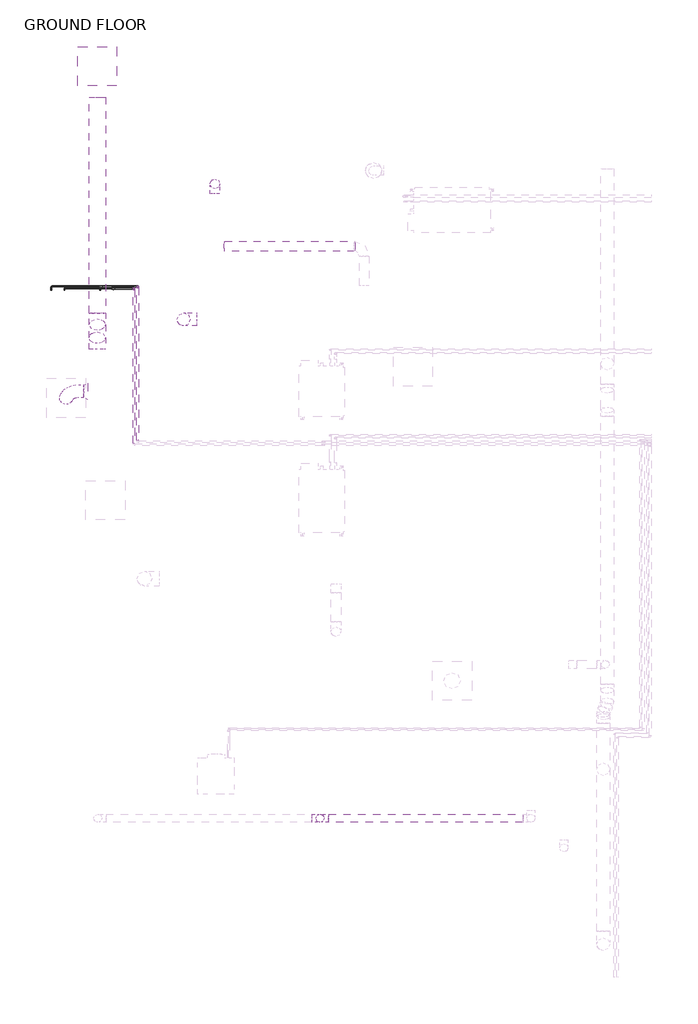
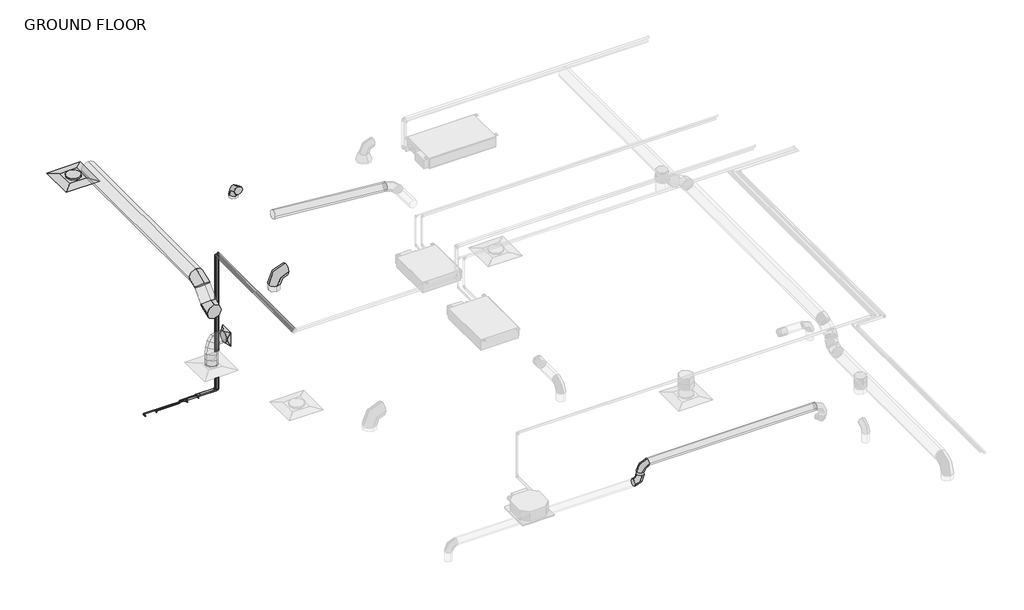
# One storey, part 10 of 20: 15 pipe fittings, 15 pipe segments, 8 duct segments, 7 duct fittings, 1 air terminal.
"""IFC4 building model written with IfcOpenShell, lengths in millimetres."""

from ifc_helpers import new_model, si_unit, point, frame, frame_2d, origin, place, context, project, spatial, circle_curve, ellipse_curve, trimmed, segment, composite_curve, outline, extrude, transform, mapped, element, save
from ifc_brep_helpers import plane_surface, cylinder_surface, advanced_brep
from components import air_terminal_a1f6e78c, rectangular_to_round_transition_angle_45_degree_544928fe, round_elbow_1_d_a253342a, round_elbow_1_d_b37ad80b, round_elbow_1_d_c80420c1, round_elbow_1_d_ea3dccb8, elbow_generic_standard_787ffbaa, elbow_generic_standard_c06ac706, elbow_generic_standard_a088f956, tee_generic_standard_d345b28c, transition_generic_standard_19d9bb8b, transition_generic_standard_6299f23b

model = new_model("IFC4")

# Units and contexts
model_context = context("Model", 3, world=origin())
ifc_project = project(units=[si_unit("LENGTHUNIT", "METRE", prefix="MILLI")], contexts=[model_context])

# Site, building, storey
site = spatial("IfcSite", under=ifc_project)
building = spatial("IfcBuilding", under=site)
storey = spatial("IfcBuildingStorey", under=building, Name="GROUND FLOOR", Elevation=30480.0)

# Air terminal
placement = place(None, origin())
air_terminal_shape = air_terminal_a1f6e78c(model_context)
element("IfcAirTerminal", 1, ObjectType="Supply Diffuser - Rectangular Face Round Neck - Hosted : 24\"x24\" Face 10\" Neck - Hosted", at=placement, inside=storey, context=model_context, shape_type="MappedRepresentation", body=[
    mapped(air_terminal_shape, transform((-19120.4829607, 13294.7195005, 33020.0), x_axis=(-1.0, 0.0, 0.0), y_axis=(0.0, 1.0, 0.0), z_axis=(0.0, 0.0, -1.0))),
])

# Duct fittings
rectangular_to_round_transition_angle_45_degree_shape = rectangular_to_round_transition_angle_45_degree_544928fe(model_context)
element("IfcDuctFitting", 2, ObjectType="Rectangular to Round Transition - Angle : 45 Degree", at=placement, inside=storey, context=model_context, shape_type="MappedRepresentation", body=[
    mapped(rectangular_to_round_transition_angle_45_degree_shape, transform((-19272.8829607, 8243.4520797, 33126.0074624), x_axis=(-0.9999999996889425, 0.0, 2.4942236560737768e-05), y_axis=(0.0, -1.0000000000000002, 0.0), z_axis=(2.4942236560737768e-05, 0.0, 0.9999999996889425))),
])
round_elbow_1_d_shape = round_elbow_1_d_a253342a(model_context)
element("IfcDuctFitting", 3, ObjectType="Round Elbow : 1 D", at=placement, inside=storey, context=model_context, shape_type="MappedRepresentation", body=[
    mapped(round_elbow_1_d_shape, transform((-17775.8704607, 9360.8945005, 33121.6), x_axis=(0.0, 0.0, 1.0), y_axis=(1.0, 0.0, 0.0), z_axis=(0.0, 1.0, 0.0))),
])
round_elbow_1_d_2_shape = round_elbow_1_d_b37ad80b(model_context)
element("IfcDuctFitting", 4, ObjectType="Round Elbow : 1 D", at=placement, inside=storey, context=model_context, shape_type="MappedRepresentation", body=[
    mapped(round_elbow_1_d_2_shape, transform((-17291.6829607, 11465.9195005, 33324.8), x_axis=(0.0, 0.0, 1.0), y_axis=(0.0, -1.0, 0.0), z_axis=(1.0, 0.0, 0.0))),
])
round_elbow_1_d_3_shape = round_elbow_1_d_c80420c1(model_context)
element("IfcDuctFitting", 5, ObjectType="Round Elbow : 1 D", at=placement, inside=storey, context=model_context, shape_type="MappedRepresentation", body=[
    mapped(round_elbow_1_d_3_shape, transform((-15656.5579607, 1613.8945005, 33121.6), x_axis=(1.0, 0.0, 0.0), y_axis=(0.0, 0.0, 1.0), z_axis=(0.0, -1.0, 0.0))),
])
element("IfcDuctFitting", 6, ObjectType="Round Elbow : 1 D", at=placement, inside=storey, context=model_context, shape_type="MappedRepresentation", body=[
    mapped(round_elbow_1_d_3_shape, transform((-15656.5579607, 1613.8945005, 33426.4), x_axis=(0.0, 0.0, 1.0), y_axis=(1.0, 0.0, 0.0), z_axis=(0.0, 1.0, 0.0))),
])
round_elbow_1_d_4_shape = round_elbow_1_d_ea3dccb8(model_context)
element("IfcDuctFitting", 7, ObjectType="Round Elbow : 1 D", at=placement, inside=storey, context=model_context, shape_type="MappedRepresentation", body=[
    mapped(round_elbow_1_d_4_shape, transform((-19120.4829607, 9003.6440535, 33126.0036612), x_axis=(0.0, 1.0, 0.0), y_axis=(0.0, 0.0, 1.0), z_axis=(1.0, 0.0, 0.0))),
])
element("IfcDuctFitting", 8, ObjectType="Round Elbow : 1 D", at=placement, inside=storey, context=model_context, shape_type="MappedRepresentation", body=[
    mapped(round_elbow_1_d_4_shape, transform((-19120.4829607, 9354.8403924, 33477.2), x_axis=(0.0, 0.707106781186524, 0.7071067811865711), y_axis=(0.0, 0.7071067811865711, -0.707106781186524), z_axis=(-1.0, 0.0, 0.0))),
])

# Duct segments
element("IfcDuctSegment", 9, ObjectType="Flex - Round", at=placement, inside=storey, context=model_context, shape_type="AdvancedBrep", body=[
    advanced_brep(
    [(-19334.2039851, 8141.8520797, 33126.0089919), (-19334.2065193, 8243.4520797, 33024.4089919), (-19334.2039851, 8345.0520797, 33126.0089919), (-19334.201451, 8243.4520797, 33227.6089918), (-19339.3953235, 8141.8520797, 33126.0091214), (-19340.589868, 8243.4520797, 33024.4091511), (-19337.3595831, 8345.0520797, 33126.0090706), (-19336.1650386, 8243.4520797, 33227.6090408), (-19571.3746602, 8045.7051799, 32769.175), (-19700.6597813, 8108.3987, 32769.175), (-19637.9662612, 8237.6838211, 32769.175), (-19508.6811401, 8174.990301, 32769.175), (-19406.4431173, 8143.1962762, 33128.9291558), (-19402.5083386, 8244.6934419, 33027.1057956), (-19412.9036409, 8346.5666122, 33129.2991304), (-19416.8384197, 8245.0694466, 33231.1224905), (-19458.1959934, 8138.8316889, 33119.2963139), (-19433.6401005, 8242.0679396, 33021.3111932), (-19496.173822, 8339.5440078, 33113.7999244), (-19520.7297149, 8236.3077571, 33211.785045), (-19497.1563337, 8124.9192335, 33086.9890267), (-19453.0278625, 8235.1447102, 33005.2341778), (-19559.6360729, 8316.8820975, 33061.1747893), (-19603.7645441, 8206.6566208, 33142.9296382), (-19530.1815615, 8102.0336622, 33028.1559055), (-19476.4370244, 8218.9228071, 32963.531693), (-19599.3318789, 8289.3739996, 32990.4583001), (-19653.076416, 8172.4848547, 33055.0825126), (-19553.6660683, 8076.2518524, 32949.9398995), (-19494.9390578, 8198.6108666, 32901.9099964), (-19622.8542209, 8263.5506536, 32912.116283), (-19681.5812314, 8141.1916394, 32960.1461861), (-19567.1119955, 8054.8656115, 32861.6704606), (-19505.5237169, 8181.7755775, 32832.4241281), (-19634.6883299, 8244.7280686, 32834.4280616), (-19696.2766085, 8117.8181025, 32863.6743941), (-19571.3746602, 8045.7051799, 32785.4279752), (-19508.6811401, 8174.990301, 32775.9501136), (-19637.9662612, 8237.6838211, 32775.7986259), (-19700.6597813, 8108.3987, 32785.2764875)],
    [
        (0, 1, circle_curve(frame((-19334.2039851, 8243.4520797, 33126.0089919), z_axis=(0.9999999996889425, 0.0, -2.4942236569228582e-05), x_axis=(0.0, -1.0, 0.0)), 101.6)),
        (1, 2, circle_curve(frame((-19334.2039851, 8243.4520797, 33126.0089919), z_axis=(0.9999999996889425, 0.0, -2.4942236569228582e-05), x_axis=(0.0, -1.0, 0.0)), 101.6)),
        (2, 3, circle_curve(frame((-19334.2039851, 8243.4520797, 33126.0089919), z_axis=(0.9999999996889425, 0.0, -2.4942236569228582e-05), x_axis=(0.0, -1.0, 0.0)), 101.6)),
        (3, 0, circle_curve(frame((-19334.2039851, 8243.4520797, 33126.0089919), z_axis=(0.9999999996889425, 0.0, -2.4942236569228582e-05), x_axis=(0.0, -1.0, 0.0)), 101.6)),
        (0, 4),
        (4, 5, ellipse_curve(frame((-19338.3774533, 8243.4520797, 33126.009096), z_axis=(0.9997128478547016, -0.010015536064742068, -0.02176949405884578), x_axis=(0.023962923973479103, 0.41823517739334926, 0.9080226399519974)), 101.6291279, 101.6)),
        (5, 1),
        (5, 6, ellipse_curve(frame((-19338.3774533, 8243.4520797, 33126.009096), z_axis=(0.9997128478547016, -0.010015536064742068, -0.02176949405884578), x_axis=(0.023962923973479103, 0.41823517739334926, 0.9080226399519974)), 101.6291279, 101.6)),
        (6, 2),
        (6, 7, ellipse_curve(frame((-19338.3774533, 8243.4520797, 33126.009096), z_axis=(0.9997128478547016, -0.010015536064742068, -0.02176949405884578), x_axis=(0.023962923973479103, 0.41823517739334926, 0.9080226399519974)), 101.6291279, 101.6)),
        (7, 3),
        (7, 4, ellipse_curve(frame((-19338.3774533, 8243.4520797, 33126.009096), z_axis=(0.9997128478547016, -0.010015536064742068, -0.02176949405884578), x_axis=(0.023962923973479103, 0.41823517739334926, 0.9080226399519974)), 101.6291279, 101.6)),
        (8, 9, circle_curve(frame((-19604.6704607, 8141.6945005, 32769.175), z_axis=(0.0, 0.0, -1.0), x_axis=(0.32771457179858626, -0.9447767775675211, 0.0)), 101.6)),
        (9, 10, circle_curve(frame((-19604.6704607, 8141.6945005, 32769.175), z_axis=(0.0, 0.0, -1.0), x_axis=(0.32771457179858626, -0.9447767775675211, 0.0)), 101.6)),
        (10, 11, circle_curve(frame((-19604.6704607, 8141.6945005, 32769.175), z_axis=(0.0, 0.0, -1.0), x_axis=(0.32771457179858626, -0.9447767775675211, 0.0)), 101.6)),
        (11, 8, circle_curve(frame((-19604.6704607, 8141.6945005, 32769.175), z_axis=(0.0, 0.0, -1.0), x_axis=(0.32771457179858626, -0.9447767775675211, 0.0)), 101.6)),
        (4, 12),
        (12, 13, ellipse_curve(frame((-19409.6733791, 8244.8814442, 33129.1141431), z_axis=(0.9970498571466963, 0.03154626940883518, 0.06997438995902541), x_axis=(0.07675629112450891, -0.4125398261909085, -0.9077000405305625)), 102.395597, 101.6)),
        (13, 5),
        (13, 14, ellipse_curve(frame((-19409.6733791, 8244.8814442, 33129.1141431), z_axis=(0.9970498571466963, 0.03154626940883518, 0.06997438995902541), x_axis=(0.07675629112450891, -0.4125398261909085, -0.9077000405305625)), 102.395597, 101.6)),
        (14, 6),
        (14, 15, ellipse_curve(frame((-19409.6733791, 8244.8814442, 33129.1141431), z_axis=(0.9970498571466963, 0.03154626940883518, 0.06997438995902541), x_axis=(0.07675629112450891, -0.4125398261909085, -0.9077000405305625)), 102.395597, 101.6)),
        (15, 7),
        (15, 12, ellipse_curve(frame((-19409.6733791, 8244.8814442, 33129.1141431), z_axis=(0.9970498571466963, 0.03154626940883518, 0.06997438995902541), x_axis=(0.07675629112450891, -0.4125398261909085, -0.9077000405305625)), 102.395597, 101.6)),
        (12, 16),
        (16, 17, ellipse_curve(frame((-19477.1849077, 8239.1878483, 33116.5481191), z_axis=(0.892486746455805, 0.18019602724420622, 0.41351759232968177), x_axis=(0.4510463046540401, -0.34642325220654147, -0.8225254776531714)), 105.3159408, 101.6)),
        (17, 13),
        (17, 18, ellipse_curve(frame((-19477.1849077, 8239.1878483, 33116.5481191), z_axis=(0.892486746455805, 0.18019602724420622, 0.41351759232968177), x_axis=(0.4510463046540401, -0.34642325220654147, -0.8225254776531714)), 105.3159408, 101.6)),
        (18, 14),
        (18, 19, ellipse_curve(frame((-19477.1849077, 8239.1878483, 33116.5481191), z_axis=(0.892486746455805, 0.18019602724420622, 0.41351759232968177), x_axis=(0.4510463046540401, -0.34642325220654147, -0.8225254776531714)), 105.3159408, 101.6)),
        (19, 15),
        (19, 16, ellipse_curve(frame((-19477.1849077, 8239.1878483, 33116.5481191), z_axis=(0.892486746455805, 0.18019602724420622, 0.41351759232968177), x_axis=(0.4510463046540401, -0.34642325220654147, -0.8225254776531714)), 105.3159408, 101.6)),
        (16, 20),
        (20, 21, ellipse_curve(frame((-19528.3962033, 8220.9006655, 33074.081908), z_axis=(0.612545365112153, 0.297830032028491, 0.7321785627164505), x_axis=(0.7880932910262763, -0.158863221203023, -0.5947028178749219)), 103.2263921, 101.6)),
        (21, 17),
        (21, 22, ellipse_curve(frame((-19528.3962033, 8220.9006655, 33074.081908), z_axis=(0.612545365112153, 0.297830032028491, 0.7321785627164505), x_axis=(0.7880932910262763, -0.158863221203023, -0.5947028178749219)), 103.2263921, 101.6)),
        (22, 18),
        (22, 23, ellipse_curve(frame((-19528.3962033, 8220.9006655, 33074.081908), z_axis=(0.612545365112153, 0.297830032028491, 0.7321785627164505), x_axis=(0.7880932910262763, -0.158863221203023, -0.5947028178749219)), 103.2263921, 101.6)),
        (23, 19),
        (23, 20, ellipse_curve(frame((-19528.3962033, 8220.9006655, 33074.081908), z_axis=(0.612545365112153, 0.297830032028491, 0.7321785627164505), x_axis=(0.7880932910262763, -0.158863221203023, -0.5947028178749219)), 103.2263921, 101.6)),
        (20, 24),
        (24, 25, ellipse_curve(frame((-19564.7567202, 8195.7038309, 33009.3071028), z_axis=(0.3709301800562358, 0.3128621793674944, 0.8743729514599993), x_axis=(0.9034628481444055, 0.09626809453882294, -0.4177168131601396)), 102.1623078, 101.6)),
        (25, 21),
        (25, 26, ellipse_curve(frame((-19564.7567202, 8195.7038309, 33009.3071028), z_axis=(0.3709301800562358, 0.3128621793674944, 0.8743729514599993), x_axis=(0.9034628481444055, 0.09626809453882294, -0.4177168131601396)), 102.1623078, 101.6)),
        (26, 22),
        (26, 27, ellipse_curve(frame((-19564.7567202, 8195.7038309, 33009.3071028), z_axis=(0.3709301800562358, 0.3128621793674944, 0.8743729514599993), x_axis=(0.9034628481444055, 0.09626809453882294, -0.4177168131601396)), 102.1623078, 101.6)),
        (27, 23),
        (27, 24, ellipse_curve(frame((-19564.7567202, 8195.7038309, 33009.3071028), z_axis=(0.3709301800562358, 0.3128621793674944, 0.8743729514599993), x_axis=(0.9034628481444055, 0.09626809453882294, -0.4177168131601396)), 102.1623078, 101.6)),
        (24, 28),
        (28, 29, ellipse_curve(frame((-19588.2601446, 8169.901253, 32931.0280912), z_axis=(0.21095319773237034, 0.26777325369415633, 0.9401043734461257), x_axis=(0.8374803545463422, 0.44647609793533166, -0.31509641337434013)), 101.8969452, 101.6)),
        (29, 25),
        (29, 30, ellipse_curve(frame((-19588.2601446, 8169.901253, 32931.0280912), z_axis=(0.21095319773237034, 0.26777325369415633, 0.9401043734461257), x_axis=(0.8374803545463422, 0.44647609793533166, -0.31509641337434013)), 101.8969452, 101.6)),
        (30, 26),
        (30, 31, ellipse_curve(frame((-19588.2601446, 8169.901253, 32931.0280912), z_axis=(0.21095319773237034, 0.26777325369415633, 0.9401043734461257), x_axis=(0.8374803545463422, 0.44647609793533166, -0.31509641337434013)), 101.8969452, 101.6)),
        (31, 27),
        (31, 28, ellipse_curve(frame((-19588.2601446, 8169.901253, 32931.0280912), z_axis=(0.21095319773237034, 0.26777325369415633, 0.9401043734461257), x_axis=(0.8374803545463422, 0.44647609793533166, -0.31509641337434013)), 101.8969452, 101.6)),
        (28, 32),
        (32, 33, ellipse_curve(frame((-19600.9001627, 8149.79684, 32848.0492611), z_axis=(0.10121724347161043, 0.17650886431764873, 0.9790810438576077), x_axis=(0.6117779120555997, 0.765023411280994, -0.20116402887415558)), 101.882316, 101.6)),
        (33, 29),
        (33, 34, ellipse_curve(frame((-19600.9001627, 8149.79684, 32848.0492611), z_axis=(0.10121724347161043, 0.17650886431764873, 0.9790810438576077), x_axis=(0.6117779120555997, 0.765023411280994, -0.20116402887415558)), 101.882316, 101.6)),
        (34, 30),
        (34, 35, ellipse_curve(frame((-19600.9001627, 8149.79684, 32848.0492611), z_axis=(0.10121724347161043, 0.17650886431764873, 0.9790810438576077), x_axis=(0.6117779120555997, 0.765023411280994, -0.20116402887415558)), 101.882316, 101.6)),
        (35, 31),
        (35, 32, ellipse_curve(frame((-19600.9001627, 8149.79684, 32848.0492611), z_axis=(0.10121724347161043, 0.17650886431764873, 0.9790810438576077), x_axis=(0.6117779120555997, 0.765023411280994, -0.20116402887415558)), 101.882316, 101.6)),
        (32, 36),
        (36, 37, ellipse_curve(frame((-19604.6704607, 8141.6945005, 32780.6133005), z_axis=(0.027772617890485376, 0.05968312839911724, 0.9978309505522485), x_axis=(0.42097828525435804, 0.9046788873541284, -0.06582852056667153)), 101.8208545, 101.6)),
        (37, 33),
        (37, 38, ellipse_curve(frame((-19604.6704607, 8141.6945005, 32780.6133005), z_axis=(0.027772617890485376, 0.05968312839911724, 0.9978309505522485), x_axis=(0.42097828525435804, 0.9046788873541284, -0.06582852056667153)), 101.8208545, 101.6)),
        (38, 34),
        (38, 39, ellipse_curve(frame((-19604.6704607, 8141.6945005, 32780.6133005), z_axis=(0.027772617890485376, 0.05968312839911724, 0.9978309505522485), x_axis=(0.42097828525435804, 0.9046788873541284, -0.06582852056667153)), 101.8208545, 101.6)),
        (39, 35),
        (39, 36, ellipse_curve(frame((-19604.6704607, 8141.6945005, 32780.6133005), z_axis=(0.027772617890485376, 0.05968312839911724, 0.9978309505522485), x_axis=(0.42097828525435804, 0.9046788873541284, -0.06582852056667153)), 101.8208545, 101.6)),
        (36, 8),
        (11, 37),
        (10, 38),
        (9, 39),
    ],
    [
        plane_surface(frame((-19334.2065193, 8243.4520797, 33024.4089919), z_axis=(0.9999999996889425, 0.0, -2.4942236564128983e-05), x_axis=(0.0, -1.0, 0.0))),
        cylinder_surface(frame((-19334.2039851, 8243.4520797, 33126.0089919), z_axis=(0.9999999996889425, 0.0, -2.4942236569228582e-05), x_axis=(0.0, -1.0, 0.0)), 101.6),
        plane_surface(frame((-19604.6704607, 8040.0945005, 32769.175), z_axis=(0.0, 0.0, -1.0), x_axis=(-1.0, 0.0, 0.0))),
        cylinder_surface(frame((-19338.3774533, 8243.4520797, 33126.009096), z_axis=(0.998852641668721, -0.020025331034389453, -0.04350156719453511), x_axis=(-0.020025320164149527, -0.9997993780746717, 0.0004360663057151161)), 101.6),
        cylinder_surface(frame((-19409.6733791, 8244.8814442, 33129.1141431), z_axis=(0.979753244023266, 0.0826276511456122, 0.18236296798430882), x_axis=(0.08262229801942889, -0.996551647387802, 0.007640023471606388)), 101.6),
        cylinder_surface(frame((-19477.1849077, 8239.1878483, 33116.5481191), z_axis=(0.7422396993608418, 0.26504842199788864, 0.6154913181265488), x_axis=(0.26589633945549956, -0.9595480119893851, 0.09255673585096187)), 101.6),
        cylinder_surface(frame((-19528.3962033, 8220.9006655, 33074.081908), z_axis=(0.4635490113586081, 0.3212266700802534, 0.8257940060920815), x_axis=(0.33344856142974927, -0.926702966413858, 0.17330224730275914)), 101.6),
        cylinder_surface(frame((-19564.7567202, 8195.7038309, 33009.3071028), z_axis=(0.274228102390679, 0.3010536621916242, 0.913326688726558), x_axis=(0.34436383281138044, -0.9174964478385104, 0.19903220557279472)), 101.6),
        cylinder_surface(frame((-19588.2601446, 8169.901253, 32931.0280912), z_axis=(0.14644878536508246, 0.23293217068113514, 0.9614028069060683), x_axis=(0.3384256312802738, -0.9250340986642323, 0.1725688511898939)), 101.6),
        cylinder_surface(frame((-19600.9001627, 8149.79684, 32848.0492611), z_axis=(0.05542475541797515, 0.11910734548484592, 0.9913332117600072), x_axis=(0.33034106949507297, -0.9391324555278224, 0.09436635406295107)), 101.6),
        cylinder_surface(frame((-19604.6704607, 8141.6945005, 32780.6133005), z_axis=(0.0, 0.0, 1.0), x_axis=(0.32771457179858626, -0.9447767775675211, 0.0)), 101.6),
    ],
    [
        (0, [[1, 2, 3, 4]]),
        (1, [[-1, 5, 6, 7]]),
        (1, [[-2, -7, 8, 9]]),
        (1, [[-3, -9, 10, 11]]),
        (1, [[-4, -11, 12, -5]]),
        (2, [[13, 14, 15, 16]]),
        (3, [[-6, 17, 18, 19]]),
        (3, [[-8, -19, 20, 21]]),
        (3, [[-10, -21, 22, 23]]),
        (3, [[-12, -23, 24, -17]]),
        (4, [[-18, 25, 26, 27]]),
        (4, [[-20, -27, 28, 29]]),
        (4, [[-22, -29, 30, 31]]),
        (4, [[-24, -31, 32, -25]]),
        (5, [[-26, 33, 34, 35]]),
        (5, [[-28, -35, 36, 37]]),
        (5, [[-30, -37, 38, 39]]),
        (5, [[-32, -39, 40, -33]]),
        (6, [[-34, 41, 42, 43]]),
        (6, [[-36, -43, 44, 45]]),
        (6, [[-38, -45, 46, 47]]),
        (6, [[-40, -47, 48, -41]]),
        (7, [[-42, 49, 50, 51]]),
        (7, [[-44, -51, 52, 53]]),
        (7, [[-46, -53, 54, 55]]),
        (7, [[-48, -55, 56, -49]]),
        (8, [[-50, 57, 58, 59]]),
        (8, [[-52, -59, 60, 61]]),
        (8, [[-54, -61, 62, 63]]),
        (8, [[-56, -63, 64, -57]]),
        (9, [[-58, 65, 66, 67]]),
        (9, [[-60, -67, 68, 69]]),
        (9, [[-62, -69, 70, 71]]),
        (9, [[-64, -71, 72, -65]]),
        (10, [[-66, 73, -16, 74]]),
        (10, [[-68, -74, -15, 75]]),
        (10, [[-70, -75, -14, 76]]),
        (10, [[-72, -76, -13, -73]]),
    ],
),
])
element("IfcDuctSegment", 10, ObjectType="Taps / Short Radius", at=placement, inside=storey, context=model_context, shape_type="SweptSolid", body=[
    extrude(outline(composite_curve([segment(trimmed(circle_curve(frame_2d((-17775.8704607, 9360.8945005)), 101.6), [point((-17775.8704607, 9462.4945005))], [point((-17674.2704607, 9360.8945005))], False, "CARTESIAN"), True, "CONTINUOUS"), segment(trimmed(circle_curve(frame_2d((-17775.8704607, 9360.8945005)), 101.6), [point((-17674.2704607, 9360.8945005))], [point((-17775.8704607, 9259.2945005))], False, "CARTESIAN"), True, "CONTINUOUS"), segment(trimmed(circle_curve(frame_2d((-17775.8704607, 9360.8945005)), 101.6), [point((-17775.8704607, 9259.2945005))], [point((-17877.4704607, 9360.8945005))], False, "CARTESIAN"), True, "CONTINUOUS"), segment(trimmed(circle_curve(frame_2d((-17775.8704607, 9360.8945005)), 101.6), [point((-17877.4704607, 9360.8945005))], [point((-17775.8704607, 9462.4945005))], False, "CARTESIAN"), True, "CONTINUOUS")], self_intersect=False)), frame((0.0, 0.0, 32816.8), z_axis=(0.0, 0.0, 1.0), x_axis=(1.0, 0.0, 0.0)), (0.0, 0.0, 1.0), 101.6),
])
element("IfcDuctSegment", 11, ObjectType="Taps / Short Radius", at=placement, inside=storey, context=model_context, shape_type="SweptSolid", body=[
    extrude(outline(composite_curve([segment(trimmed(circle_curve(frame_2d((-17291.6829607, 11465.9195005)), 76.2), [point((-17367.8829607, 11465.9195005))], [point((-17291.6829607, 11542.1195005))], False, "CARTESIAN"), True, "CONTINUOUS"), segment(trimmed(circle_curve(frame_2d((-17291.6829607, 11465.9195005)), 76.2), [point((-17291.6829607, 11542.1195005))], [point((-17215.4829607, 11465.9195005))], False, "CARTESIAN"), True, "CONTINUOUS"), segment(trimmed(circle_curve(frame_2d((-17291.6829607, 11465.9195005)), 76.2), [point((-17215.4829607, 11465.9195005))], [point((-17291.6829607, 11389.7195005))], False, "CARTESIAN"), True, "CONTINUOUS"), segment(trimmed(circle_curve(frame_2d((-17291.6829607, 11465.9195005)), 76.2), [point((-17291.6829607, 11389.7195005))], [point((-17367.8829607, 11465.9195005))], False, "CARTESIAN"), True, "CONTINUOUS")], self_intersect=False)), frame((0.0, 0.0, 33121.6), z_axis=(0.0, 0.0, 1.0), x_axis=(1.0, 0.0, 0.0)), (0.0, 0.0, 1.0), 50.8),
])
element("IfcDuctSegment", 12, ObjectType="Taps / Short Radius", at=placement, inside=storey, context=model_context, shape_type="SweptSolid", body=[
    extrude(outline(composite_curve([segment(trimmed(circle_curve(frame_2d((-15656.5579607, 1613.8945005)), 63.5), [point((-15656.5579607, 1550.3945005))], [point((-15720.0579607, 1613.8945005))], False, "CARTESIAN"), True, "CONTINUOUS"), segment(trimmed(circle_curve(frame_2d((-15656.5579607, 1613.8945005)), 63.5), [point((-15720.0579607, 1613.8945005))], [point((-15656.5579607, 1677.3945005))], False, "CARTESIAN"), True, "CONTINUOUS"), segment(trimmed(circle_curve(frame_2d((-15656.5579607, 1613.8945005)), 63.5), [point((-15656.5579607, 1677.3945005))], [point((-15593.0579607, 1613.8945005))], False, "CARTESIAN"), True, "CONTINUOUS"), segment(trimmed(circle_curve(frame_2d((-15656.5579607, 1613.8945005)), 63.5), [point((-15593.0579607, 1613.8945005))], [point((-15656.5579607, 1550.3945005))], False, "CARTESIAN"), True, "CONTINUOUS")], self_intersect=False)), frame((0.0, 0.0, 33248.6), z_axis=(0.0, 0.0, 1.0), x_axis=(1.0, 0.0, 0.0)), (0.0, 0.0, 1.0), 50.8),
])
element("IfcDuctSegment", 13, ObjectType="Taps / Short Radius", at=placement, inside=storey, context=model_context, shape_type="SweptSolid", body=[
    extrude(outline(composite_curve([segment(trimmed(circle_curve(frame_2d((1613.8945005, 33426.4)), 63.5), [point((1550.3945005, 33426.4))], [point((1613.8945005, 33489.9))], False, "CARTESIAN"), True, "CONTINUOUS"), segment(trimmed(circle_curve(frame_2d((1613.8945005, 33426.4)), 63.5), [point((1613.8945005, 33489.9))], [point((1677.3945005, 33426.4))], False, "CARTESIAN"), True, "CONTINUOUS"), segment(trimmed(circle_curve(frame_2d((1613.8945005, 33426.4)), 63.5), [point((1677.3945005, 33426.4))], [point((1613.8945005, 33362.9))], False, "CARTESIAN"), True, "CONTINUOUS"), segment(trimmed(circle_curve(frame_2d((1613.8945005, 33426.4)), 63.5), [point((1613.8945005, 33362.9))], [point((1550.3945005, 33426.4))], False, "CARTESIAN"), True, "CONTINUOUS")], self_intersect=False)), frame((-15529.5579607, 0.0, 0.0), z_axis=(1.0, 0.0, 0.0), x_axis=(0.0, 1.0, 0.0)), (0.0, 0.0, 1.0), 3022.7452801),
])
element("IfcDuctSegment", 14, ObjectType="Taps / Short Radius", at=placement, inside=storey, context=model_context, shape_type="SweptSolid", body=[
    extrude(outline(composite_curve([segment(trimmed(circle_curve(frame_2d((0.0, -76.2)), 76.2), [point((0.0, -152.4))], [point((-76.2000001, -76.2))], False, "CARTESIAN"), True, "CONTINUOUS"), segment(trimmed(circle_curve(frame_2d((0.0, -76.2)), 76.2), [point((-76.2000001, -76.2))], [point((0.0, 0.0))], False, "CARTESIAN"), True, "CONTINUOUS"), segment(trimmed(circle_curve(frame_2d((0.0, -76.2)), 76.2), [point((0.0, 0.0))], [point((76.2, -76.2))], False, "CARTESIAN"), True, "CONTINUOUS"), segment(trimmed(circle_curve(frame_2d((0.0, -76.2)), 76.2), [point((76.2, -76.2))], [point((0.0, -152.4))], False, "CARTESIAN"), True, "CONTINUOUS")], self_intersect=False)), frame((-15121.8533092, 10574.5395797, 33134.8878573), z_axis=(-0.9961916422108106, 0.0, 0.0871906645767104), x_axis=(0.0871906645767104, 0.0, 0.9961916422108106)), (0.0, 0.0, 1.0), 2025.7247298),
])
element("IfcDuctSegment", 15, ObjectType="Taps / Short Radius", at=placement, inside=storey, context=model_context, shape_type="SweptSolid", body=[
    extrude(outline(composite_curve([segment(trimmed(circle_curve(frame_2d((33477.2, -19120.4829607)), 127.0), [point((33477.2, -18993.4829607))], [point((33604.2, -19120.4829607))], False, "CARTESIAN"), True, "CONTINUOUS"), segment(trimmed(circle_curve(frame_2d((33477.2, -19120.4829607)), 127.0), [point((33604.2, -19120.4829607))], [point((33477.2, -19247.4829607))], False, "CARTESIAN"), True, "CONTINUOUS"), segment(trimmed(circle_curve(frame_2d((33477.2, -19120.4829607)), 127.0), [point((33477.2, -19247.4829607))], [point((33350.2, -19120.4829607))], False, "CARTESIAN"), True, "CONTINUOUS"), segment(trimmed(circle_curve(frame_2d((33477.2, -19120.4829607)), 127.0), [point((33350.2, -19120.4829607))], [point((33477.2, -18993.4829607))], False, "CARTESIAN"), True, "CONTINUOUS")], self_intersect=False)), frame((0.0, 9460.0506372, 0.0), z_axis=(0.0, 1.0, 0.0), x_axis=(0.0, 0.0, 1.0)), (0.0, 0.0, 1.0), 3355.4014425),
])
element("IfcDuctSegment", 16, ObjectType="Taps / Short Radius", at=placement, inside=storey, context=model_context, shape_type="SweptSolid", body=[
    extrude(outline(composite_curve([segment(trimmed(circle_curve(frame_2d((0.0, 127.0)), 127.0), [point((-127.0, 127.0))], [point((0.0, 254.0))], False, "CARTESIAN"), True, "CONTINUOUS"), segment(trimmed(circle_curve(frame_2d((0.0, 127.0)), 127.0), [point((0.0, 254.0))], [point((127.0, 127.0))], False, "CARTESIAN"), True, "CONTINUOUS"), segment(trimmed(circle_curve(frame_2d((0.0, 127.0)), 127.0), [point((127.0, 127.0))], [point((0.0, 0.0))], False, "CARTESIAN"), True, "CONTINUOUS"), segment(trimmed(circle_curve(frame_2d((0.0, 127.0)), 127.0), [point((0.0, 0.0))], [point((-127.0, 127.0))], False, "CARTESIAN"), True, "CONTINUOUS")], self_intersect=False)), frame((-19120.4829607, 8988.2363699, 33290.2011), z_axis=(0.0, 0.707106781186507, 0.707106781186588), x_axis=(1.0, 0.0, 0.0)), (0.0, 0.0, 1.0), 286.2461357),
])

# Pipe fittings
elbow_generic_standard_shape = elbow_generic_standard_787ffbaa(model_context)
element("IfcPipeFitting", 17, ObjectType="Elbow - Generic : Standard", at=placement, inside=storey, context=model_context, shape_type="MappedRepresentation", body=[
    mapped(elbow_generic_standard_shape, transform((-19633.2454607, 9844.2892607, 30835.6), x_axis=(-1.0, 0.0, 0.0), y_axis=(0.0, -0.9999999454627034, 0.0003302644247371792), z_axis=(0.0, 0.0003302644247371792, 0.9999999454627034))),
])
element("IfcPipeFitting", 18, ObjectType="Elbow - Generic : Standard", at=placement, inside=storey, context=model_context, shape_type="MappedRepresentation", body=[
    mapped(elbow_generic_standard_shape, transform((-19201.4454607, 9844.2892607, 30835.6), x_axis=(1.0, 0.0, 0.0), y_axis=(0.0, 0.0, 1.0), z_axis=(0.0, -1.0, 0.0))),
])
element("IfcPipeFitting", 19, ObjectType="Elbow - Generic : Standard", at=placement, inside=storey, context=model_context, shape_type="MappedRepresentation", body=[
    mapped(elbow_generic_standard_shape, transform((-19201.4454607, 9844.2892607, 30886.4), x_axis=(0.0, 0.0, 1.0), y_axis=(1.0, 0.0, 0.0), z_axis=(0.0, 1.0, 0.0))),
])
element("IfcPipeFitting", 20, ObjectType="Elbow - Generic : Standard", at=placement, inside=storey, context=model_context, shape_type="MappedRepresentation", body=[
    mapped(elbow_generic_standard_shape, transform((-18871.1484822, 9844.2892607, 30835.6), x_axis=(0.0, 0.0, -1.0), y_axis=(0.0, -1.0, 0.0), z_axis=(-1.0, 0.0, 0.0))),
])
elbow_generic_standard_2_shape = elbow_generic_standard_c06ac706(model_context)
element("IfcPipeFitting", 21, ObjectType="Elbow - Generic : Standard", at=placement, inside=storey, context=model_context, shape_type="MappedRepresentation", body=[
    mapped(elbow_generic_standard_2_shape, transform((-18495.0079607, 9873.2718518, 33436.8475147), x_axis=(0.0, 1.0, 0.0), y_axis=(0.0, 0.0, -1.0), z_axis=(-1.0, 0.0, 0.0))),
])
element("IfcPipeFitting", 22, ObjectType="Elbow - Generic : Standard", at=placement, inside=storey, context=model_context, shape_type="MappedRepresentation", body=[
    mapped(elbow_generic_standard_2_shape, transform((-18552.1579607, 9844.2892607, 33436.8475147), x_axis=(0.0, 1.0, 0.0), y_axis=(0.0, 0.0, -1.0), z_axis=(-1.0, 0.0, 0.0))),
])
element("IfcPipeFitting", 23, ObjectType="Elbow - Generic : Standard", at=placement, inside=storey, context=model_context, shape_type="MappedRepresentation", body=[
    mapped(elbow_generic_standard_2_shape, transform((-18552.1579607, 9844.2892607, 30886.4), x_axis=(0.0, 0.0, -1.0), y_axis=(-1.0, 0.0, 0.0), z_axis=(0.0, 1.0, 0.0))),
])
element("IfcPipeFitting", 24, ObjectType="Elbow - Generic : Standard", at=placement, inside=storey, context=model_context, shape_type="MappedRepresentation", body=[
    mapped(elbow_generic_standard_2_shape, transform((-18495.0079607, 9873.2718518, 30835.6), x_axis=(0.0, 0.0, -1.0), y_axis=(-1.0, 0.0, 0.0), z_axis=(0.0, 1.0, 0.0))),
])
elbow_generic_standard_3_shape = elbow_generic_standard_a088f956(model_context)
element("IfcPipeFitting", 25, ObjectType="Elbow - Generic : Standard", at=placement, inside=storey, context=model_context, shape_type="MappedRepresentation", body=[
    mapped(elbow_generic_standard_3_shape, transform((-19836.4454607, 9873.2718518, 30835.6), x_axis=(-1.0, 0.0, 0.0), y_axis=(0.0, -1.0, 0.0), z_axis=(0.0, 0.0, 1.0))),
])
tee_generic_standard_shape = tee_generic_standard_d345b28c(model_context)
element("IfcPipeFitting", 26, ObjectType="Tee - Generic : Standard", at=placement, inside=storey, context=model_context, shape_type="MappedRepresentation", body=[
    mapped(tee_generic_standard_shape, transform((-19074.3484822, 9873.2718518, 30835.6), x_axis=(1.0, 0.0, 0.0), y_axis=(0.0, 1.0, 0.0), z_axis=(0.0, 0.0, 1.0))),
])
element("IfcPipeFitting", 27, ObjectType="Tee - Generic : Standard", at=placement, inside=storey, context=model_context, shape_type="MappedRepresentation", body=[
    mapped(tee_generic_standard_shape, transform((-18871.1484822, 9844.2892607, 30886.4), x_axis=(1.0, 0.0, 0.0), y_axis=(0.0, 0.0, 1.0), z_axis=(0.0, -1.0, 0.0))),
])
transition_generic_standard_shape = transition_generic_standard_19d9bb8b(model_context)
element("IfcPipeFitting", 28, ObjectType="Transition - Generic : Standard", at=placement, inside=storey, context=model_context, shape_type="MappedRepresentation", body=[
    mapped(transition_generic_standard_shape, transform((-19101.3359822, 9873.2718518, 30835.6), x_axis=(-1.0, 0.0, 0.0), y_axis=(0.0, -1.0, 0.0), z_axis=(0.0, 0.0, 1.0))),
])
element("IfcPipeFitting", 29, ObjectType="Transition - Generic : Standard", at=placement, inside=storey, context=model_context, shape_type="MappedRepresentation", body=[
    mapped(transition_generic_standard_shape, transform((-19074.3484822, 9846.2843518, 30835.6), x_axis=(0.0, -1.0, 0.0), y_axis=(1.0, 0.0, 0.0), z_axis=(0.0, 0.0, 1.0))),
])
transition_generic_standard_2_shape = transition_generic_standard_6299f23b(model_context)
element("IfcPipeFitting", 30, ObjectType="Transition - Generic : Standard", at=placement, inside=storey, context=model_context, shape_type="MappedRepresentation", body=[
    mapped(transition_generic_standard_2_shape, transform((-18898.1359822, 9844.2892607, 30886.4), x_axis=(-1.0, 0.0, 0.0), y_axis=(0.0, -1.0, 0.0), z_axis=(0.0, 0.0, 1.0))),
])
element("IfcPipeFitting", 31, ObjectType="Transition - Generic : Standard", at=placement, inside=storey, context=model_context, shape_type="MappedRepresentation", body=[
    mapped(transition_generic_standard_2_shape, transform((-18871.1484822, 9844.2892607, 30859.4125), x_axis=(0.0, 0.0, -1.0), y_axis=(1.0, 0.0, 0.0), z_axis=(0.0, -1.0, 0.0))),
])

# Pipe segments
element("IfcPipeSegment", 32, ObjectType="Copper Tubing", at=placement, inside=storey, context=model_context, shape_type="SweptSolid", body=[
    extrude(outline(composite_curve([segment(trimmed(circle_curve(frame_2d((33436.8475147, -18495.0079607)), 14.2875), [point((33436.8475147, -18480.7204607))], [point((33451.1350147, -18495.0079607))], False, "CARTESIAN"), True, "CONTINUOUS"), segment(trimmed(circle_curve(frame_2d((33436.8475147, -18495.0079607)), 14.2875), [point((33451.1350147, -18495.0079607))], [point((33436.8475147, -18509.2954607))], False, "CARTESIAN"), True, "CONTINUOUS"), segment(trimmed(circle_curve(frame_2d((33436.8475147, -18495.0079607)), 14.2875), [point((33436.8475147, -18509.2954607))], [point((33422.5600147, -18495.0079607))], False, "CARTESIAN"), True, "CONTINUOUS"), segment(trimmed(circle_curve(frame_2d((33436.8475147, -18495.0079607)), 14.2875), [point((33422.5600147, -18495.0079607))], [point((33436.8475147, -18480.7204607))], False, "CARTESIAN"), True, "CONTINUOUS")], self_intersect=False)), frame((0.0, 7480.9093518, 0.0), z_axis=(0.0, 1.0, 0.0), x_axis=(0.0, 0.0, 1.0)), (0.0, 0.0, 1.0), 2371.725),
])
element("IfcPipeSegment", 33, ObjectType="Copper Tubing", at=placement, inside=storey, context=model_context, shape_type="SweptSolid", body=[
    extrude(outline(composite_curve([segment(trimmed(circle_curve(frame_2d((9873.2718518, 30835.6)), 14.2875), [point((9887.5593518, 30835.6))], [point((9873.2718518, 30821.3125))], False, "CARTESIAN"), True, "CONTINUOUS"), segment(trimmed(circle_curve(frame_2d((9873.2718518, 30835.6)), 14.2875), [point((9873.2718518, 30821.3125))], [point((9858.9843518, 30835.6))], False, "CARTESIAN"), True, "CONTINUOUS"), segment(trimmed(circle_curve(frame_2d((9873.2718518, 30835.6)), 14.2875), [point((9858.9843518, 30835.6))], [point((9873.2718518, 30849.8875))], False, "CARTESIAN"), True, "CONTINUOUS"), segment(trimmed(circle_curve(frame_2d((9873.2718518, 30835.6)), 14.2875), [point((9873.2718518, 30849.8875))], [point((9887.5593518, 30835.6))], False, "CARTESIAN"), True, "CONTINUOUS")], self_intersect=False)), frame((-19047.3609822, 0.0, 0.0), z_axis=(1.0, 0.0, 0.0), x_axis=(0.0, 1.0, 0.0)), (0.0, 0.0, 1.0), 531.7155215),
])
element("IfcPipeSegment", 34, ObjectType="Copper Tubing", at=placement, inside=storey, context=model_context, shape_type="SweptSolid", body=[
    extrude(outline(composite_curve([segment(trimmed(circle_curve(frame_2d((-18495.0079607, 9873.2718518)), 14.2875), [point((-18480.7204607, 9873.2718518))], [point((-18495.0079607, 9858.9843518))], False, "CARTESIAN"), True, "CONTINUOUS"), segment(trimmed(circle_curve(frame_2d((-18495.0079607, 9873.2718518)), 14.2875), [point((-18495.0079607, 9858.9843518))], [point((-18509.2954607, 9873.2718518))], False, "CARTESIAN"), True, "CONTINUOUS"), segment(trimmed(circle_curve(frame_2d((-18495.0079607, 9873.2718518)), 14.2875), [point((-18509.2954607, 9873.2718518))], [point((-18495.0079607, 9887.5593518))], False, "CARTESIAN"), True, "CONTINUOUS"), segment(trimmed(circle_curve(frame_2d((-18495.0079607, 9873.2718518)), 14.2875), [point((-18495.0079607, 9887.5593518))], [point((-18480.7204607, 9873.2718518))], False, "CARTESIAN"), True, "CONTINUOUS")], self_intersect=False)), frame((0.0, 0.0, 30856.2375), z_axis=(0.0, 0.0, 1.0), x_axis=(1.0, 0.0, 0.0)), (0.0, 0.0, 1.0), 2559.9725147),
])
element("IfcPipeSegment", 35, ObjectType="Copper Tubing", at=placement, inside=storey, context=model_context, shape_type="SweptSolid", body=[
    extrude(outline(composite_curve([segment(trimmed(circle_curve(frame_2d((33436.8475147, -18552.1579607)), 14.2875), [point((33436.8475147, -18537.8704607))], [point((33451.1350147, -18552.1579607))], False, "CARTESIAN"), True, "CONTINUOUS"), segment(trimmed(circle_curve(frame_2d((33436.8475147, -18552.1579607)), 14.2875), [point((33451.1350147, -18552.1579607))], [point((33436.8475147, -18566.4454607))], False, "CARTESIAN"), True, "CONTINUOUS"), segment(trimmed(circle_curve(frame_2d((33436.8475147, -18552.1579607)), 14.2875), [point((33436.8475147, -18566.4454607))], [point((33422.5600147, -18552.1579607))], False, "CARTESIAN"), True, "CONTINUOUS"), segment(trimmed(circle_curve(frame_2d((33436.8475147, -18552.1579607)), 14.2875), [point((33422.5600147, -18552.1579607))], [point((33436.8475147, -18537.8704607))], False, "CARTESIAN"), True, "CONTINUOUS")], self_intersect=False)), frame((0.0, 7436.4593518, 0.0), z_axis=(0.0, 1.0, 0.0), x_axis=(0.0, 0.0, 1.0)), (0.0, 0.0, 1.0), 2387.1924089),
])
element("IfcPipeSegment", 36, ObjectType="Copper Tubing", at=placement, inside=storey, context=model_context, shape_type="SweptSolid", body=[
    extrude(outline(composite_curve([segment(trimmed(circle_curve(frame_2d((-18552.1579607, 9844.2892607)), 14.2875), [point((-18537.8704607, 9844.2892607))], [point((-18552.1579607, 9830.0017607))], False, "CARTESIAN"), True, "CONTINUOUS"), segment(trimmed(circle_curve(frame_2d((-18552.1579607, 9844.2892607)), 14.2875), [point((-18552.1579607, 9830.0017607))], [point((-18566.4454607, 9844.2892607))], False, "CARTESIAN"), True, "CONTINUOUS"), segment(trimmed(circle_curve(frame_2d((-18552.1579607, 9844.2892607)), 14.2875), [point((-18566.4454607, 9844.2892607))], [point((-18552.1579607, 9858.5767607))], False, "CARTESIAN"), True, "CONTINUOUS"), segment(trimmed(circle_curve(frame_2d((-18552.1579607, 9844.2892607)), 14.2875), [point((-18552.1579607, 9858.5767607))], [point((-18537.8704607, 9844.2892607))], False, "CARTESIAN"), True, "CONTINUOUS")], self_intersect=False)), frame((0.0, 0.0, 30907.0375), z_axis=(0.0, 0.0, 1.0), x_axis=(1.0, 0.0, 0.0)), (0.0, 0.0, 1.0), 2509.1725147),
])
element("IfcPipeSegment", 37, ObjectType="Copper Tubing", at=placement, inside=storey, context=model_context, shape_type="SweptSolid", body=[
    extrude(outline(composite_curve([segment(trimmed(circle_curve(frame_2d((30835.6, -19836.4454607)), 7.9375), [point((30835.6, -19828.5079607))], [point((30843.5375, -19836.4454607))], False, "CARTESIAN"), True, "CONTINUOUS"), segment(trimmed(circle_curve(frame_2d((30835.6, -19836.4454607)), 7.9375), [point((30843.5375, -19836.4454607))], [point((30835.6, -19844.3829607))], False, "CARTESIAN"), True, "CONTINUOUS"), segment(trimmed(circle_curve(frame_2d((30835.6, -19836.4454607)), 7.9375), [point((30835.6, -19844.3829607))], [point((30827.6625, -19836.4454607))], False, "CARTESIAN"), True, "CONTINUOUS"), segment(trimmed(circle_curve(frame_2d((30835.6, -19836.4454607)), 7.9375), [point((30827.6625, -19836.4454607))], [point((30835.6, -19828.5079607))], False, "CARTESIAN"), True, "CONTINUOUS")], self_intersect=False)), frame((0.0, 9811.7445005, 0.0), z_axis=(0.0, 1.0, 0.0), x_axis=(0.0, 0.0, 1.0)), (0.0, 0.0, 1.0), 47.2398513),
])
element("IfcPipeSegment", 38, ObjectType="Copper Tubing", at=placement, inside=storey, context=model_context, shape_type="SweptSolid", body=[
    extrude(outline(composite_curve([segment(trimmed(circle_curve(frame_2d((0.0, -4.7625)), 4.7625), [point((0.0, -9.525))], [point((-4.7625001, -4.7625))], False, "CARTESIAN"), True, "CONTINUOUS"), segment(trimmed(circle_curve(frame_2d((0.0, -4.7625)), 4.7625), [point((-4.7625001, -4.7625))], [point((0.0, 0.0))], False, "CARTESIAN"), True, "CONTINUOUS"), segment(trimmed(circle_curve(frame_2d((0.0, -4.7625)), 4.7625), [point((0.0, 0.0))], [point((4.7625, -4.7625))], False, "CARTESIAN"), True, "CONTINUOUS"), segment(trimmed(circle_curve(frame_2d((0.0, -4.7625)), 4.7625), [point((4.7625, -4.7625))], [point((0.0, -9.525))], False, "CARTESIAN"), True, "CONTINUOUS")], self_intersect=False)), frame((-19638.0079607, 9833.1767613, 30835.6036701), z_axis=(0.0, -0.9999999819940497, 0.00018976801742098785), x_axis=(0.0, 0.00018976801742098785, 0.9999999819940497)), (0.0, 0.0, 1.0), 21.4322612),
])
element("IfcPipeSegment", 39, ObjectType="Copper Tubing", at=placement, inside=storey, context=model_context, shape_type="SweptSolid", body=[
    extrude(outline(composite_curve([segment(trimmed(circle_curve(frame_2d((9844.2892607, 30835.6)), 4.7625), [point((9839.5267607, 30835.6))], [point((9844.2892607, 30840.3625))], False, "CARTESIAN"), True, "CONTINUOUS"), segment(trimmed(circle_curve(frame_2d((9844.2892607, 30835.6)), 4.7625), [point((9844.2892607, 30840.3625))], [point((9849.0517607, 30835.6))], False, "CARTESIAN"), True, "CONTINUOUS"), segment(trimmed(circle_curve(frame_2d((9844.2892607, 30835.6)), 4.7625), [point((9849.0517607, 30835.6))], [point((9844.2892607, 30830.8375))], False, "CARTESIAN"), True, "CONTINUOUS"), segment(trimmed(circle_curve(frame_2d((9844.2892607, 30835.6)), 4.7625), [point((9844.2892607, 30830.8375))], [point((9839.5267607, 30835.6))], False, "CARTESIAN"), True, "CONTINUOUS")], self_intersect=False)), frame((-19622.1329607, 0.0, 0.0), z_axis=(1.0, 0.0, 0.0), x_axis=(0.0, 1.0, 0.0)), (0.0, 0.0, 1.0), 409.575),
])
element("IfcPipeSegment", 40, ObjectType="Copper Tubing", at=placement, inside=storey, context=model_context, shape_type="SweptSolid", body=[
    extrude(outline(composite_curve([segment(trimmed(circle_curve(frame_2d((9873.2718518, 30835.6)), 7.9375), [point((9881.2093518, 30835.6))], [point((9873.2718518, 30827.6625))], False, "CARTESIAN"), True, "CONTINUOUS"), segment(trimmed(circle_curve(frame_2d((9873.2718518, 30835.6)), 7.9375), [point((9873.2718518, 30827.6625))], [point((9865.3343518, 30835.6))], False, "CARTESIAN"), True, "CONTINUOUS"), segment(trimmed(circle_curve(frame_2d((9873.2718518, 30835.6)), 7.9375), [point((9865.3343518, 30835.6))], [point((9873.2718518, 30843.5375))], False, "CARTESIAN"), True, "CONTINUOUS"), segment(trimmed(circle_curve(frame_2d((9873.2718518, 30835.6)), 7.9375), [point((9873.2718518, 30843.5375))], [point((9881.2093518, 30835.6))], False, "CARTESIAN"), True, "CONTINUOUS")], self_intersect=False)), frame((-19822.1579607, 0.0, 0.0), z_axis=(1.0, 0.0, 0.0), x_axis=(0.0, 1.0, 0.0)), (0.0, 0.0, 1.0), 713.6782285),
])
element("IfcPipeSegment", 41, ObjectType="Copper Tubing", at=placement, inside=storey, context=model_context, shape_type="SweptSolid", body=[
    extrude(outline(composite_curve([segment(trimmed(circle_curve(frame_2d((30835.6, -19074.3484822)), 7.9375), [point((30835.6, -19066.4109822))], [point((30843.5375, -19074.3484822))], False, "CARTESIAN"), True, "CONTINUOUS"), segment(trimmed(circle_curve(frame_2d((30835.6, -19074.3484822)), 7.9375), [point((30843.5375, -19074.3484822))], [point((30835.6, -19082.2859822))], False, "CARTESIAN"), True, "CONTINUOUS"), segment(trimmed(circle_curve(frame_2d((30835.6, -19074.3484822)), 7.9375), [point((30835.6, -19082.2859822))], [point((30827.6625, -19074.3484822))], False, "CARTESIAN"), True, "CONTINUOUS"), segment(trimmed(circle_curve(frame_2d((30835.6, -19074.3484822)), 7.9375), [point((30827.6625, -19074.3484822))], [point((30835.6, -19066.4109822))], False, "CARTESIAN"), True, "CONTINUOUS")], self_intersect=False)), frame((0.0, 9811.7445005, 0.0), z_axis=(0.0, 1.0, 0.0), x_axis=(0.0, 0.0, 1.0)), (0.0, 0.0, 1.0), 27.3961013),
])
element("IfcPipeSegment", 42, ObjectType="Copper Tubing", at=placement, inside=storey, context=model_context, shape_type="SweptSolid", body=[
    extrude(outline(composite_curve([segment(trimmed(circle_curve(frame_2d((-19201.4454607, 9844.2892607)), 4.7625), [point((-19206.2079607, 9844.2892607))], [point((-19201.4454607, 9849.0517607))], False, "CARTESIAN"), True, "CONTINUOUS"), segment(trimmed(circle_curve(frame_2d((-19201.4454607, 9844.2892607)), 4.7625), [point((-19201.4454607, 9849.0517607))], [point((-19196.6829607, 9844.2892607))], False, "CARTESIAN"), True, "CONTINUOUS"), segment(trimmed(circle_curve(frame_2d((-19201.4454607, 9844.2892607)), 4.7625), [point((-19196.6829607, 9844.2892607))], [point((-19201.4454607, 9839.5267607))], False, "CARTESIAN"), True, "CONTINUOUS"), segment(trimmed(circle_curve(frame_2d((-19201.4454607, 9844.2892607)), 4.7625), [point((-19201.4454607, 9839.5267607))], [point((-19206.2079607, 9844.2892607))], False, "CARTESIAN"), True, "CONTINUOUS")], self_intersect=False)), frame((0.0, 0.0, 30846.7125), z_axis=(0.0, 0.0, 1.0), x_axis=(1.0, 0.0, 0.0)), (0.0, 0.0, 1.0), 28.575),
])
element("IfcPipeSegment", 43, ObjectType="Copper Tubing", at=placement, inside=storey, context=model_context, shape_type="SweptSolid", body=[
    extrude(outline(composite_curve([segment(trimmed(circle_curve(frame_2d((9844.2892607, 30886.4)), 4.7625), [point((9849.0517607, 30886.4))], [point((9844.2892607, 30881.6375))], False, "CARTESIAN"), True, "CONTINUOUS"), segment(trimmed(circle_curve(frame_2d((9844.2892607, 30886.4)), 4.7625), [point((9844.2892607, 30881.6375))], [point((9839.5267607, 30886.4))], False, "CARTESIAN"), True, "CONTINUOUS"), segment(trimmed(circle_curve(frame_2d((9844.2892607, 30886.4)), 4.7625), [point((9839.5267607, 30886.4))], [point((9844.2892607, 30891.1625))], False, "CARTESIAN"), True, "CONTINUOUS"), segment(trimmed(circle_curve(frame_2d((9844.2892607, 30886.4)), 4.7625), [point((9844.2892607, 30891.1625))], [point((9849.0517607, 30886.4))], False, "CARTESIAN"), True, "CONTINUOUS")], self_intersect=False)), frame((-19190.3329607, 0.0, 0.0), z_axis=(1.0, 0.0, 0.0), x_axis=(0.0, 1.0, 0.0)), (0.0, 0.0, 1.0), 285.0532285),
])
element("IfcPipeSegment", 44, ObjectType="Copper Tubing", at=placement, inside=storey, context=model_context, shape_type="SweptSolid", body=[
    extrude(outline(composite_curve([segment(trimmed(circle_curve(frame_2d((0.0, -4.7625)), 4.7625), [point((0.0, 0.0))], [point((4.7625, -4.7625))], False, "CARTESIAN"), True, "CONTINUOUS"), segment(trimmed(circle_curve(frame_2d((0.0, -4.7625)), 4.7625), [point((4.7625, -4.7625))], [point((0.0, -9.525))], False, "CARTESIAN"), True, "CONTINUOUS"), segment(trimmed(circle_curve(frame_2d((0.0, -4.7625)), 4.7625), [point((0.0, -9.525))], [point((-4.7625, -4.7625))], False, "CARTESIAN"), True, "CONTINUOUS"), segment(trimmed(circle_curve(frame_2d((0.0, -4.7625)), 4.7625), [point((-4.7625, -4.7625))], [point((0.0, 0.0))], False, "CARTESIAN"), True, "CONTINUOUS")], self_intersect=False)), frame((-18875.9109822, 9821.7953567, 30835.6), z_axis=(-3.4106051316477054e-12, 1.0, 0.0), x_axis=(0.0, 0.0, -1.0)), (0.0, 0.0, 1.0), 11.381404),
])
element("IfcPipeSegment", 45, ObjectType="Copper Tubing", at=placement, inside=storey, context=model_context, shape_type="SweptSolid", body=[
    extrude(outline(composite_curve([segment(trimmed(circle_curve(frame_2d((-18871.1484822, 9844.2892607)), 4.7625), [point((-18866.3859822, 9844.2892607))], [point((-18871.1484822, 9839.5267607))], False, "CARTESIAN"), True, "CONTINUOUS"), segment(trimmed(circle_curve(frame_2d((-18871.1484822, 9844.2892607)), 4.7625), [point((-18871.1484822, 9839.5267607))], [point((-18875.9109822, 9844.2892607))], False, "CARTESIAN"), True, "CONTINUOUS"), segment(trimmed(circle_curve(frame_2d((-18871.1484822, 9844.2892607)), 4.7625), [point((-18875.9109822, 9844.2892607))], [point((-18871.1484822, 9849.0517607))], False, "CARTESIAN"), True, "CONTINUOUS"), segment(trimmed(circle_curve(frame_2d((-18871.1484822, 9844.2892607)), 4.7625), [point((-18871.1484822, 9849.0517607))], [point((-18866.3859822, 9844.2892607))], False, "CARTESIAN"), True, "CONTINUOUS")], self_intersect=False)), frame((0.0, 0.0, 30846.7125), z_axis=(0.0, 0.0, 1.0), x_axis=(1.0, 0.0, 0.0)), (0.0, 0.0, 1.0), 5.55625),
])
element("IfcPipeSegment", 46, ObjectType="Copper Tubing", at=placement, inside=storey, context=model_context, shape_type="SweptSolid", body=[
    extrude(outline(composite_curve([segment(trimmed(circle_curve(frame_2d((9844.2892607, 30886.4)), 14.2875), [point((9858.5767607, 30886.4))], [point((9844.2892607, 30872.1125))], False, "CARTESIAN"), True, "CONTINUOUS"), segment(trimmed(circle_curve(frame_2d((9844.2892607, 30886.4)), 14.2875), [point((9844.2892607, 30872.1125))], [point((9830.0017607, 30886.4))], False, "CARTESIAN"), True, "CONTINUOUS"), segment(trimmed(circle_curve(frame_2d((9844.2892607, 30886.4)), 14.2875), [point((9830.0017607, 30886.4))], [point((9844.2892607, 30900.6875))], False, "CARTESIAN"), True, "CONTINUOUS"), segment(trimmed(circle_curve(frame_2d((9844.2892607, 30886.4)), 14.2875), [point((9844.2892607, 30900.6875))], [point((9858.5767607, 30886.4))], False, "CARTESIAN"), True, "CONTINUOUS")], self_intersect=False)), frame((-18844.1609822, 0.0, 0.0), z_axis=(1.0, 0.0, 0.0), x_axis=(0.0, 1.0, 0.0)), (0.0, 0.0, 1.0), 271.3655215),
])

save(model, "model.ifc")
